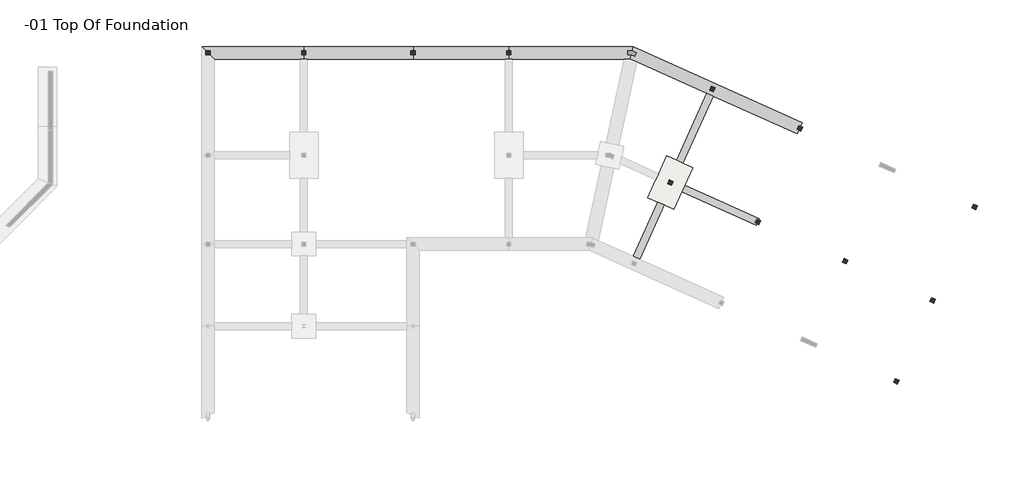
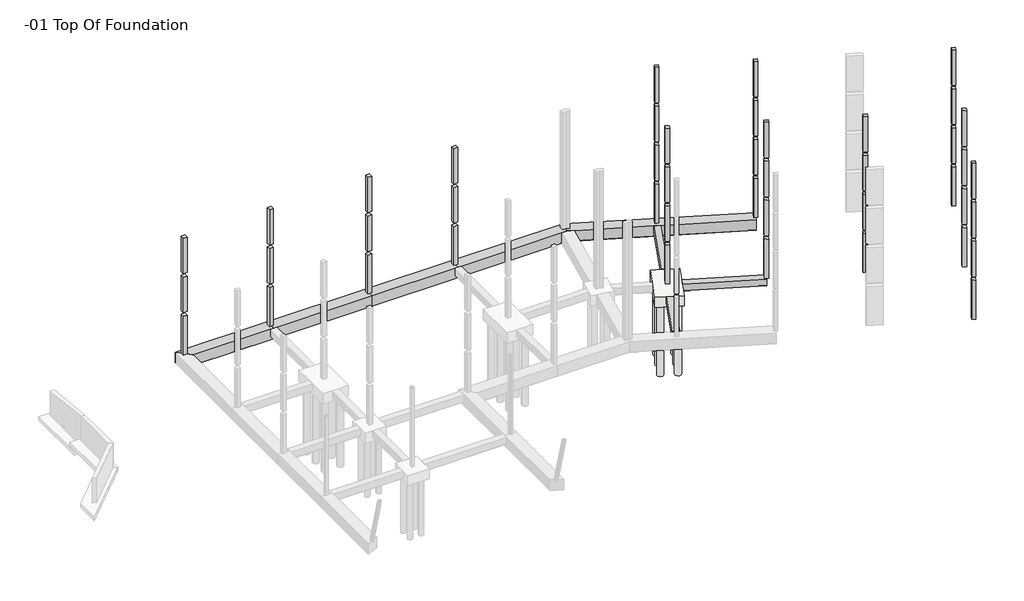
# One storey, part 4 of 4: 12 columns, 8 beams, 7 slabs.
"""IFC4 building model written with IfcOpenShell, lengths in millimetres."""

from ifc_helpers import new_model, si_unit, point, frame, frame_2d, origin, place, context, project, spatial, polyline, circle_curve, trimmed, segment, composite_curve, outline, extrude, faceted_brep, element, save

model = new_model("IFC4")

# Units and contexts
model_context = context("Model", 3, world=origin())
ifc_project = project(units=[si_unit("LENGTHUNIT", "METRE", prefix="MILLI")], contexts=[model_context])

# Site, building, storey
site = spatial("IfcSite", under=ifc_project)
building = spatial("IfcBuilding", under=site)
storey = spatial("IfcBuildingStorey", under=building, Name="-01 Top Of Foundation", Elevation=-304.8)

# Beams
placement = place(None, origin())
element("IfcBeam", 1, ObjectType="Ring Beam : 12 x 24", at=placement, inside=storey, context=model_context, shape_type="SweptSolid", body=[
    extrude(outline(polyline([(0.0, 787.4000001), (0.0, 1295.4), (584.2, 1295.4), (609.6, 1270.0), (609.6, 812.8000001), (584.2, 787.4000001), (0.0, 787.4000001)])), frame((35458.8390181, -8392.9653659, -304.8), z_axis=(0.40975609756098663, 0.9121951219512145, 0.0), x_axis=(0.0, 0.0, -1.0)), (0.0, 0.0, 1.0), 5372.1),
])
element("IfcBeam", 2, ObjectType="Ring Beam : 12 x 24", at=placement, inside=storey, context=model_context, shape_type="SweptSolid", body=[
    extrude(outline(polyline([(6743.7000001, 889.0), (7251.7, 889.0), (7251.7, 304.8), (7226.3, 279.4), (6769.1, 279.4), (6743.7000001, 304.8), (6743.7000001, 889.0)])), frame((37733.3780425, -17865.6165854, -1193.8), z_axis=(0.4097560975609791, 0.9121951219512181, 0.0), x_axis=(-0.9121951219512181, 0.4097560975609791, 0.0)), (0.0, 0.0, 1.0), 4356.1),
])
element("IfcBeam", 3, ObjectType="Ring Beam : 12 x 24", at=placement, inside=storey, context=model_context, shape_type="SweptSolid", body=[
    extrude(outline(polyline([(-7200.8999999, 1066.8), (-6692.9, 1066.8), (-6692.9, 482.6), (-6718.3, 457.2), (-7175.4999999, 457.2), (-7200.8999999, 482.6), (-7200.8999999, 1066.8)])), frame((37370.2819449, -18704.9317073, -1371.6), z_axis=(-0.9121951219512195, 0.40975609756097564, 0.0), x_axis=(-0.40975609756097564, -0.9121951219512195, 0.0)), (0.0, 0.0, 1.0), 5969.0),
])
element("IfcBeam", 4, ObjectType="Ring Beam : 16 x 32", at=placement, inside=storey, context=model_context, shape_type="Brep", body=[
    faceted_brep([(7010.4, -457.2, -304.8), (7010.4, 457.2, -304.8), (-457.2, 457.2, -304.8), (457.2, -457.2, -304.8), (6756.4, -457.2, -304.8), (7010.4, -457.2, -1193.8), (457.2, -457.2, -1193.8), (7010.4, -431.8, -1219.2), (431.8, -431.8, -1219.2), (7010.4, 431.8, -1219.2), (-431.8, 431.8, -1219.2), (7010.4, 457.2, -1193.8), (-457.2, 457.2, -1193.8)], [[[0, 1, 2, 3, 4]], [[5, 0, 4, 3, 6]], [[7, 5, 6, 8]], [[9, 7, 8, 10]], [[11, 9, 10, 12]], [[1, 11, 12, 2]], [[2, 12, 10, 8, 6, 3]], [[1, 0, 5, 7, 9, 11]]]),
])
element("IfcBeam", 5, ObjectType="Ring Beam : 16 x 32", at=placement, inside=storey, context=model_context, shape_type="Brep", body=[
    faceted_brep([(22009.1, -457.2, -304.8), (22009.1, 457.2, -304.8), (14998.7, 457.2, -304.8), (14998.7, -457.2, -304.8), (21755.1, -457.2, -304.8), (22009.1, -457.2, -1193.8), (14998.7, -457.2, -1193.8), (22009.1, -431.8, -1219.2), (14998.7, -431.8, -1219.2), (22009.1, 431.8, -1219.2), (14998.7, 431.8, -1219.2), (22009.1, 457.2, -1193.8), (14998.7, 457.2, -1193.8)], [[[0, 1, 2, 3, 4]], [[5, 0, 4, 3, 6]], [[7, 5, 6, 8]], [[9, 7, 8, 10]], [[11, 9, 10, 12]], [[1, 11, 12, 2]], [[2, 12, 10, 8, 6, 3]], [[1, 0, 5, 7, 9, 11]]]),
])
element("IfcBeam", 6, ObjectType="Ring Beam : 16 x 32", at=placement, inside=storey, context=model_context, shape_type="Brep", body=[
    faceted_brep([(31098.7387393, 457.2, -304.8), (31033.4244536, 152.4, -304.8), (30968.1131019, -152.386308, -304.8), (30902.7958822, -457.2, -304.8), (31345.5946226, -656.104247, -304.8), (36478.4321888, -2961.7639024, -304.8), (36941.8273107, -3169.92, -304.8), (43104.9824327, -5938.3960976, -304.8), (43375.5853595, -5335.982439, -304.8), (43479.6634083, -5104.284878, -304.8), (30902.7958822, -457.2, -1193.8), (31345.5946226, -656.104247, -1193.8), (43104.9824327, -5938.3960976, -1193.8), (30908.2387393, -431.8, -1219.2), (31327.3417353, -620.0601693, -1219.2), (43115.3902376, -5915.2263415, -1219.2), (31093.2958822, 431.8, -1219.2), (43469.2556034, -5127.4546341, -1219.2), (31098.7387393, 457.2, -1193.8), (43479.6634083, -5104.284878, -1193.8)], [[[0, 1, 2, 3, 4, 5, 6, 7, 8, 9]], [[3, 10, 11, 12, 7, 6, 5, 4]], [[10, 13, 14, 15, 12, 11]], [[13, 16, 17, 15, 14]], [[16, 18, 19, 17]], [[18, 0, 9, 19]], [[0, 18, 16, 13, 10, 3, 2, 1]], [[7, 12, 15, 17, 19, 9, 8]]]),
])
element("IfcBeam", 7, ObjectType="Ring Beam : 16 x 32", at=placement, inside=storey, context=model_context, shape_type="Brep", body=[
    faceted_brep([(14998.7, -457.2, -304.8), (14998.7, 457.2, -304.8), (7010.4, 457.2, -304.8), (7010.4, -457.2, -304.8), (7264.4, -457.2, -304.8), (14998.7, -457.2, -1193.8), (7010.4, -457.2, -1193.8), (14998.7, -431.8, -1219.2), (7010.4, -431.8, -1219.2), (14998.7, 431.8, -1219.2), (7010.4, 431.8, -1219.2), (14998.7, 457.2, -1193.8), (7010.4, 457.2, -1193.8)], [[[0, 1, 2, 3, 4]], [[5, 0, 4, 3, 6]], [[7, 5, 6, 8]], [[9, 7, 8, 10]], [[11, 9, 10, 12]], [[1, 11, 12, 2]], [[1, 0, 5, 7, 9, 11]], [[2, 12, 10, 8, 6, 3]]]),
])
element("IfcBeam", 8, ObjectType="Ring Beam : 16 x 32", at=placement, inside=storey, context=model_context, shape_type="Brep", body=[
    faceted_brep([(30902.7958822, -457.2, -304.8), (31098.7387393, 457.2, -304.8), (22009.1, 457.2, -304.8), (22009.1, -457.2, -304.8), (22263.1, -457.2, -304.8), (30453.0587055, -457.2, -304.8), (30902.7958822, -457.2, -1193.8), (22009.1, -457.2, -1193.8), (30453.0587055, -457.2, -1193.8), (30908.2387393, -431.8, -1219.2), (22009.1, -431.8, -1219.2), (30484.4781809, -431.8, -1219.2), (31093.2958822, 431.8, -1219.2), (22009.1, 431.8, -1219.2), (31098.7387393, 457.2, -1193.8), (22009.1, 457.2, -1193.8)], [[[0, 1, 2, 3, 4, 5]], [[6, 0, 5, 4, 3, 7, 8]], [[9, 6, 8, 7, 10, 11]], [[12, 9, 11, 10, 13]], [[14, 12, 13, 15]], [[1, 14, 15, 2]], [[1, 0, 6, 9, 12, 14]], [[2, 15, 13, 10, 7, 3]]]),
])

# Columns
element("IfcColumn", 9, ObjectType="Concrete-Rectangular-Column : 12 x 12", at=placement, inside=storey, context=model_context, shape_type="Brep", body=[
    faceted_brep([(152.4, 152.4, -304.8), (152.4, -152.4, -304.8), (-152.4, -152.4, -304.8), (-152.4, 152.4, -304.8), (152.4, -152.4, 3048.0), (152.4, 152.4, 3048.0), (-152.4, 152.4, 3048.0), (-152.4, -152.4, 3048.0), (152.4, 152.4, 0.0), (152.4, -152.4, 0.0), (-152.4, -152.4, 0.0), (-152.4, 152.4, 0.0)], [[[0, 1, 2, 3]], [[4, 5, 6, 7]], [[1, 0, 8, 5, 4, 9]], [[2, 1, 9, 4, 7, 10]], [[3, 2, 10, 7, 6, 11]], [[0, 3, 11, 6, 5, 8]]]),
    faceted_brep([(152.4, -152.4, 6705.6), (152.4, 152.4, 6705.6), (152.4, 152.4, 9753.6), (152.4, -152.4, 9753.6), (-152.4, -152.4, 6705.6), (-152.4, -152.4, 9753.6), (-152.4, 152.4, 6705.6), (-152.4, 152.4, 9753.6)], [[[0, 1, 2, 3]], [[4, 0, 3, 5]], [[6, 4, 5, 7]], [[1, 6, 7, 2]], [[1, 0, 4, 6]], [[3, 2, 7, 5]]]),
    faceted_brep([(152.4, -152.4, 6400.8), (152.4, 152.4, 6400.8), (-152.4, 152.4, 6400.8), (-152.4, -152.4, 6400.8), (152.4, -152.4, 3352.8), (152.4, 152.4, 3352.8), (-152.4, -152.4, 3352.8), (-152.4, 152.4, 3352.8)], [[[0, 1, 2, 3]], [[1, 0, 4, 5]], [[0, 3, 6, 4]], [[3, 2, 7, 6]], [[2, 1, 5, 7]], [[5, 4, 6, 7]]]),
])
element("IfcColumn", 10, ObjectType="Concrete-Rectangular-Column : 12 x 12", at=placement, inside=storey, context=model_context, shape_type="Brep", body=[
    faceted_brep([(7162.8, 152.4, -304.8), (7162.8, -152.4, -304.8), (6858.0, -152.4, -304.8), (6858.0, 152.4, -304.8), (7162.8, -152.4, 3048.0), (7162.8, 152.4, 3048.0), (6858.0, 152.4, 3048.0), (6858.0, -152.4, 3048.0), (7162.8, 152.4, 0.0), (7162.8, -152.4, 0.0), (6858.0, -152.4, 0.0), (6858.0, 152.4, 0.0)], [[[0, 1, 2, 3]], [[4, 5, 6, 7]], [[1, 0, 8, 5, 4, 9]], [[2, 1, 9, 4, 7, 10]], [[3, 2, 10, 7, 6, 11]], [[0, 3, 11, 6, 5, 8]]]),
    faceted_brep([(7162.8, -152.4, 6705.6), (7162.8, 152.4, 6705.6), (7162.8, 152.4, 9753.6), (7162.8, -152.4, 9753.6), (6858.0, -152.4, 6705.6), (6858.0, -152.4, 9753.6), (6858.0, 152.4, 6705.6), (6858.0, 152.4, 9753.6)], [[[0, 1, 2, 3]], [[4, 0, 3, 5]], [[6, 4, 5, 7]], [[1, 6, 7, 2]], [[1, 0, 4, 6]], [[3, 2, 7, 5]]]),
    faceted_brep([(7162.8, -152.4, 6400.8), (7162.8, 152.4, 6400.8), (6858.0, 152.4, 6400.8), (6858.0, -152.4, 6400.8), (7162.8, -152.4, 3352.8), (7162.8, 152.4, 3352.8), (6858.0, -152.4, 3352.8), (6858.0, 152.4, 3352.8)], [[[0, 1, 2, 3]], [[1, 0, 4, 5]], [[0, 3, 6, 4]], [[3, 2, 7, 6]], [[2, 1, 5, 7]], [[5, 4, 6, 7]]]),
])
element("IfcColumn", 11, ObjectType="Concrete-Rectangular-Column : 12 x 12", at=placement, inside=storey, context=model_context, shape_type="Brep", body=[
    faceted_brep([(15151.1, 152.4, -304.8), (15151.1, -152.4, -304.8), (14846.3, -152.4, -304.8), (14846.3, 152.4, -304.8), (15151.1, -152.4, 3048.0), (15151.1, 152.4, 3048.0), (14846.3, 152.4, 3048.0), (14846.3, -152.4, 3048.0), (15151.1, 152.4, 0.0), (15151.1, -152.4, 0.0), (14846.3, -152.4, 0.0), (14846.3, 152.4, 0.0)], [[[0, 1, 2, 3]], [[4, 5, 6, 7]], [[1, 0, 8, 5, 4, 9]], [[2, 1, 9, 4, 7, 10]], [[3, 2, 10, 7, 6, 11]], [[0, 3, 11, 6, 5, 8]]]),
    faceted_brep([(15151.1, -152.4, 6705.6), (15151.1, 152.4, 6705.6), (15151.1, 152.4, 9753.6), (15151.1, -152.4, 9753.6), (14846.3, -152.4, 6705.6), (14846.3, -152.4, 9753.6), (14846.3, 152.4, 6705.6), (14846.3, 152.4, 9753.6)], [[[0, 1, 2, 3]], [[4, 0, 3, 5]], [[6, 4, 5, 7]], [[1, 6, 7, 2]], [[1, 0, 4, 6]], [[3, 2, 7, 5]]]),
    faceted_brep([(15151.1, -152.4, 6400.8), (15151.1, 152.4, 6400.8), (14846.3, 152.4, 6400.8), (14846.3, -152.4, 6400.8), (15151.1, -152.4, 3352.8), (15151.1, 152.4, 3352.8), (14846.3, -152.4, 3352.8), (14846.3, 152.4, 3352.8)], [[[0, 1, 2, 3]], [[1, 0, 4, 5]], [[0, 3, 6, 4]], [[3, 2, 7, 6]], [[2, 1, 5, 7]], [[5, 4, 6, 7]]]),
])
element("IfcColumn", 12, ObjectType="Concrete-Rectangular-Column : 12 x 12", at=placement, inside=storey, context=model_context, shape_type="Brep", body=[
    faceted_brep([(22161.5, 152.4, -304.8), (22161.5, -152.4, -304.8), (21856.7, -152.4, -304.8), (21856.7, 152.4, -304.8), (22161.5, -152.4, 3048.0), (22161.5, 152.4, 3048.0), (21856.7, 152.4, 3048.0), (21856.7, -152.4, 3048.0), (22161.5, 152.4, 0.0), (22161.5, -152.4, 0.0), (21856.7, -152.4, 0.0), (21856.7, 152.4, 0.0)], [[[0, 1, 2, 3]], [[4, 5, 6, 7]], [[1, 0, 8, 5, 4, 9]], [[2, 1, 9, 4, 7, 10]], [[3, 2, 10, 7, 6, 11]], [[0, 3, 11, 6, 5, 8]]]),
    faceted_brep([(22161.5, -152.4, 6705.6), (22161.5, 152.4, 6705.6), (22161.5, 152.4, 9753.6), (22161.5, -152.4, 9753.6), (21856.7, -152.4, 6705.6), (21856.7, -152.4, 9753.6), (21856.7, 152.4, 6705.6), (21856.7, 152.4, 9753.6)], [[[0, 1, 2, 3]], [[4, 0, 3, 5]], [[6, 4, 5, 7]], [[1, 6, 7, 2]], [[1, 0, 4, 6]], [[3, 2, 7, 5]]]),
    faceted_brep([(22161.5, -152.4, 6400.8), (22161.5, 152.4, 6400.8), (21856.7, 152.4, 6400.8), (21856.7, -152.4, 6400.8), (22161.5, -152.4, 3352.8), (22161.5, 152.4, 3352.8), (21856.7, -152.4, 3352.8), (21856.7, 152.4, 3352.8)], [[[0, 1, 2, 3]], [[1, 0, 4, 5]], [[0, 3, 6, 4]], [[3, 2, 7, 6]], [[2, 1, 5, 7]], [[5, 4, 6, 7]]]),
])
element("IfcColumn", 13, ObjectType="Concrete-Rectangular-Column : 12 x 12", at=placement, inside=storey, context=model_context, shape_type="Brep", body=[
    faceted_brep([(36820.8985303, -2447.3209756, -304.8), (37098.9356034, -2572.2146341, -304.8), (36974.0419449, -2850.2517073, -304.8), (36696.0048717, -2725.3580488, -304.8), (37098.9356034, -2572.2146341, 3048.0), (36820.8985303, -2447.3209756, 3048.0), (36696.0048717, -2725.3580488, 3048.0), (36974.0419449, -2850.2517073, 3048.0), (36820.8985303, -2447.3209756, 0.0), (37098.9356034, -2572.2146341, 0.0), (36974.0419449, -2850.2517073, 0.0), (36696.0048717, -2725.3580488, 0.0)], [[[0, 1, 2, 3]], [[4, 5, 6, 7]], [[1, 0, 8, 5, 4, 9]], [[2, 1, 9, 4, 7, 10]], [[3, 2, 10, 7, 6, 11]], [[0, 3, 11, 6, 5, 8]]]),
    faceted_brep([(37098.9356034, -2572.2146341, 10058.4), (36820.8985303, -2447.3209756, 10058.4), (36820.8985303, -2447.3209756, 13106.4), (37098.9356034, -2572.2146341, 13106.4), (36974.0419449, -2850.2517073, 10058.4), (36974.0419449, -2850.2517073, 13106.4), (36696.0048717, -2725.3580488, 10058.4), (36696.0048717, -2725.3580488, 13106.4)], [[[0, 1, 2, 3]], [[4, 0, 3, 5]], [[6, 4, 5, 7]], [[1, 6, 7, 2]], [[1, 0, 4, 6]], [[3, 2, 7, 5]]]),
    faceted_brep([(36820.8985303, -2447.3209756, 3352.8), (37098.9356034, -2572.2146341, 3352.8), (36974.0419449, -2850.2517073, 3352.8), (36696.0048717, -2725.3580488, 3352.8), (37098.9356034, -2572.2146341, 6400.8), (36820.8985303, -2447.3209756, 6400.8), (36696.0048717, -2725.3580488, 6400.8), (36974.0419449, -2850.2517073, 6400.8)], [[[0, 1, 2, 3]], [[4, 5, 6, 7]], [[1, 0, 5, 4]], [[2, 1, 4, 7]], [[3, 2, 7, 6]], [[0, 3, 6, 5]]]),
    faceted_brep([(36820.8985303, -2447.3209756, 6705.6), (37098.9356034, -2572.2146341, 6705.6), (36974.0419449, -2850.2517073, 6705.6), (36696.0048717, -2725.3580488, 6705.6), (37098.9356034, -2572.2146341, 9753.6), (36820.8985303, -2447.3209756, 9753.6), (36696.0048717, -2725.3580488, 9753.6), (36974.0419449, -2850.2517073, 9753.6)], [[[0, 1, 2, 3]], [[4, 5, 6, 7]], [[1, 0, 5, 4]], [[2, 1, 4, 7]], [[3, 2, 7, 6]], [[0, 3, 6, 5]]]),
])
element("IfcColumn", 14, ObjectType="Concrete-Rectangular-Column : 12 x 12", at=placement, inside=storey, context=model_context, shape_type="Brep", body=[
    faceted_brep([(43215.7512132, -5319.875122, -304.8), (43493.7882864, -5444.7687805, -304.8), (43368.8946278, -5722.8058537, -304.8), (43090.8575546, -5597.9121951, -304.8), (43493.7882864, -5444.7687805, 3048.0), (43215.7512132, -5319.875122, 3048.0), (43090.8575546, -5597.9121951, 3048.0), (43368.8946278, -5722.8058537, 3048.0), (43215.7512132, -5319.875122, 0.0), (43493.7882864, -5444.7687805, 0.0), (43368.8946278, -5722.8058537, 0.0), (43090.8575546, -5597.9121951, 0.0)], [[[0, 1, 2, 3]], [[4, 5, 6, 7]], [[1, 0, 8, 5, 4, 9]], [[2, 1, 9, 4, 7, 10]], [[3, 2, 10, 7, 6, 11]], [[0, 3, 11, 6, 5, 8]]]),
    faceted_brep([(43493.7882864, -5444.7687805, 10058.4), (43215.7512132, -5319.875122, 10058.4), (43215.7512132, -5319.875122, 13106.4), (43493.7882864, -5444.7687805, 13106.4), (43368.8946278, -5722.8058537, 10058.4), (43368.8946278, -5722.8058537, 13106.4), (43090.8575546, -5597.9121951, 10058.4), (43090.8575546, -5597.9121951, 13106.4)], [[[0, 1, 2, 3]], [[4, 0, 3, 5]], [[6, 4, 5, 7]], [[1, 6, 7, 2]], [[1, 0, 4, 6]], [[3, 2, 7, 5]]]),
    faceted_brep([(43215.7512132, -5319.875122, 3352.8), (43493.7882864, -5444.7687805, 3352.8), (43368.8946278, -5722.8058537, 3352.8), (43090.8575546, -5597.9121951, 3352.8), (43493.7882864, -5444.7687805, 6400.8), (43215.7512132, -5319.875122, 6400.8), (43090.8575546, -5597.9121951, 6400.8), (43368.8946278, -5722.8058537, 6400.8)], [[[0, 1, 2, 3]], [[4, 5, 6, 7]], [[1, 0, 5, 4]], [[2, 1, 4, 7]], [[3, 2, 7, 6]], [[0, 3, 6, 5]]]),
    faceted_brep([(43215.7512132, -5319.875122, 6705.6), (43493.7882864, -5444.7687805, 6705.6), (43368.8946278, -5722.8058537, 6705.6), (43090.8575546, -5597.9121951, 6705.6), (43493.7882864, -5444.7687805, 9753.6), (43215.7512132, -5319.875122, 9753.6), (43090.8575546, -5597.9121951, 9753.6), (43368.8946278, -5722.8058537, 9753.6)], [[[0, 1, 2, 3]], [[4, 5, 6, 7]], [[1, 0, 5, 4]], [[2, 1, 4, 7]], [[3, 2, 7, 6]], [[0, 3, 6, 5]]]),
])
element("IfcColumn", 15, ObjectType="Concrete-Rectangular-Column : 12 x 12", at=placement, inside=storey, context=model_context, shape_type="Brep", body=[
    faceted_brep([(56005.456579, -11064.9834146, -304.8), (56283.4936522, -11189.8770732, -304.8), (56158.5999937, -11467.9141463, -304.8), (55880.5629205, -11343.0204878, -304.8), (56283.4936522, -11189.8770732, 3048.0), (56005.456579, -11064.9834146, 3048.0), (55880.5629205, -11343.0204878, 3048.0), (56158.5999937, -11467.9141463, 3048.0), (56005.456579, -11064.9834146, 0.0), (56283.4936522, -11189.8770732, 0.0), (56158.5999937, -11467.9141463, 0.0), (55880.5629205, -11343.0204878, 0.0)], [[[0, 1, 2, 3]], [[4, 5, 6, 7]], [[1, 0, 8, 5, 4, 9]], [[2, 1, 9, 4, 7, 10]], [[3, 2, 10, 7, 6, 11]], [[0, 3, 11, 6, 5, 8]]]),
    faceted_brep([(56283.4936522, -11189.8770732, 10058.4), (56005.456579, -11064.9834146, 10058.4), (56005.456579, -11064.9834146, 13106.4), (56283.4936522, -11189.8770732, 13106.4), (56158.5999937, -11467.9141463, 10058.4), (56158.5999937, -11467.9141463, 13106.4), (55880.5629205, -11343.0204878, 10058.4), (55880.5629205, -11343.0204878, 13106.4)], [[[0, 1, 2, 3]], [[4, 0, 3, 5]], [[6, 4, 5, 7]], [[1, 6, 7, 2]], [[1, 0, 4, 6]], [[3, 2, 7, 5]]]),
    faceted_brep([(56005.456579, -11064.9834146, 3352.8), (56283.4936522, -11189.8770732, 3352.8), (56158.5999937, -11467.9141463, 3352.8), (55880.5629205, -11343.0204878, 3352.8), (56283.4936522, -11189.8770732, 6400.8), (56005.456579, -11064.9834146, 6400.8), (55880.5629205, -11343.0204878, 6400.8), (56158.5999937, -11467.9141463, 6400.8)], [[[0, 1, 2, 3]], [[4, 5, 6, 7]], [[1, 0, 5, 4]], [[2, 1, 4, 7]], [[3, 2, 7, 6]], [[0, 3, 6, 5]]]),
    faceted_brep([(56005.456579, -11064.9834146, 6705.6), (56283.4936522, -11189.8770732, 6705.6), (56158.5999937, -11467.9141463, 6705.6), (55880.5629205, -11343.0204878, 6705.6), (56283.4936522, -11189.8770732, 9753.6), (56005.456579, -11064.9834146, 9753.6), (55880.5629205, -11343.0204878, 9753.6), (56158.5999937, -11467.9141463, 9753.6)], [[[0, 1, 2, 3]], [[4, 5, 6, 7]], [[1, 0, 5, 4]], [[2, 1, 4, 7]], [[3, 2, 7, 6]], [[0, 3, 6, 5]]]),
])
element("IfcColumn", 16, ObjectType="Concrete-Rectangular-Column : 12 x 12", at=placement, inside=storey, context=model_context, shape_type="Brep", body=[
    faceted_brep([(52929.9502376, -17911.6463415, -304.8), (53207.9873107, -18036.54, -304.8), (53083.0936522, -18314.5770732, -304.8), (52805.056579, -18189.6834146, -304.8), (53207.9873107, -18036.54, 3048.0), (52929.9502376, -17911.6463415, 3048.0), (52805.056579, -18189.6834146, 3048.0), (53083.0936522, -18314.5770732, 3048.0), (52929.9502376, -17911.6463415, 0.0), (53207.9873107, -18036.54, 0.0), (53083.0936522, -18314.5770732, 0.0), (52805.056579, -18189.6834146, 0.0)], [[[0, 1, 2, 3]], [[4, 5, 6, 7]], [[1, 0, 8, 5, 4, 9]], [[2, 1, 9, 4, 7, 10]], [[3, 2, 10, 7, 6, 11]], [[0, 3, 11, 6, 5, 8]]]),
    faceted_brep([(53207.9873107, -18036.54, 10058.4), (52929.9502376, -17911.6463415, 10058.4), (52929.9502376, -17911.6463415, 13106.4), (53207.9873107, -18036.54, 13106.4), (53083.0936522, -18314.5770732, 10058.4), (53083.0936522, -18314.5770732, 13106.4), (52805.056579, -18189.6834146, 10058.4), (52805.056579, -18189.6834146, 13106.4)], [[[0, 1, 2, 3]], [[4, 0, 3, 5]], [[6, 4, 5, 7]], [[1, 6, 7, 2]], [[1, 0, 4, 6]], [[3, 2, 7, 5]]]),
    faceted_brep([(52929.9502376, -17911.6463415, 3352.8), (53207.9873107, -18036.54, 3352.8), (53083.0936522, -18314.5770732, 3352.8), (52805.056579, -18189.6834146, 3352.8), (53207.9873107, -18036.54, 6400.8), (52929.9502376, -17911.6463415, 6400.8), (52805.056579, -18189.6834146, 6400.8), (53083.0936522, -18314.5770732, 6400.8)], [[[0, 1, 2, 3]], [[4, 5, 6, 7]], [[1, 0, 5, 4]], [[2, 1, 4, 7]], [[3, 2, 7, 6]], [[0, 3, 6, 5]]]),
    faceted_brep([(52929.9502376, -17911.6463415, 6705.6), (53207.9873107, -18036.54, 6705.6), (53083.0936522, -18314.5770732, 6705.6), (52805.056579, -18189.6834146, 6705.6), (53207.9873107, -18036.54, 9753.6), (52929.9502376, -17911.6463415, 9753.6), (52805.056579, -18189.6834146, 9753.6), (53083.0936522, -18314.5770732, 9753.6)], [[[0, 1, 2, 3]], [[4, 5, 6, 7]], [[1, 0, 5, 4]], [[2, 1, 4, 7]], [[3, 2, 7, 6]], [[0, 3, 6, 5]]]),
])
element("IfcColumn", 17, ObjectType="Concrete-Rectangular-Column : 12 x 12", at=placement, inside=storey, context=model_context, shape_type="Brep", body=[
    faceted_brep([(50270.7560912, -23831.5190244, -304.8), (50548.7931644, -23956.4126829, -304.8), (50423.8995059, -24234.4497561, -304.8), (50145.8624327, -24109.5560976, -304.8), (50548.7931644, -23956.4126829, 3048.0), (50270.7560912, -23831.5190244, 3048.0), (50145.8624327, -24109.5560976, 3048.0), (50423.8995059, -24234.4497561, 3048.0), (50270.7560912, -23831.5190244, 0.0), (50548.7931644, -23956.4126829, 0.0), (50423.8995059, -24234.4497561, 0.0), (50145.8624327, -24109.5560976, 0.0)], [[[0, 1, 2, 3]], [[4, 5, 6, 7]], [[1, 0, 8, 5, 4, 9]], [[2, 1, 9, 4, 7, 10]], [[3, 2, 10, 7, 6, 11]], [[0, 3, 11, 6, 5, 8]]]),
    faceted_brep([(50548.7931644, -23956.4126829, 10058.4), (50270.7560912, -23831.5190244, 10058.4), (50270.7560912, -23831.5190244, 13106.4), (50548.7931644, -23956.4126829, 13106.4), (50423.8995059, -24234.4497561, 10058.4), (50423.8995059, -24234.4497561, 13106.4), (50145.8624327, -24109.5560976, 10058.4), (50145.8624327, -24109.5560976, 13106.4)], [[[0, 1, 2, 3]], [[4, 0, 3, 5]], [[6, 4, 5, 7]], [[1, 6, 7, 2]], [[1, 0, 4, 6]], [[3, 2, 7, 5]]]),
    faceted_brep([(50270.7560912, -23831.5190244, 3352.8), (50548.7931644, -23956.4126829, 3352.8), (50423.8995059, -24234.4497561, 3352.8), (50145.8624327, -24109.5560976, 3352.8), (50548.7931644, -23956.4126829, 6400.8), (50270.7560912, -23831.5190244, 6400.8), (50145.8624327, -24109.5560976, 6400.8), (50423.8995059, -24234.4497561, 6400.8)], [[[0, 1, 2, 3]], [[4, 5, 6, 7]], [[1, 0, 5, 4]], [[2, 1, 4, 7]], [[3, 2, 7, 6]], [[0, 3, 6, 5]]]),
    faceted_brep([(50270.7560912, -23831.5190244, 6705.6), (50548.7931644, -23956.4126829, 6705.6), (50423.8995059, -24234.4497561, 6705.6), (50145.8624327, -24109.5560976, 6705.6), (50548.7931644, -23956.4126829, 9753.6), (50270.7560912, -23831.5190244, 9753.6), (50145.8624327, -24109.5560976, 9753.6), (50423.8995059, -24234.4497561, 9753.6)], [[[0, 1, 2, 3]], [[4, 5, 6, 7]], [[1, 0, 5, 4]], [[2, 1, 4, 7]], [[3, 2, 7, 6]], [[0, 3, 6, 5]]]),
])
element("IfcColumn", 18, ObjectType="Concrete-Rectangular-Column : 12 x 12", at=placement, inside=storey, context=model_context, shape_type="Brep", body=[
    faceted_brep([(33745.3921888, -9293.9839024, -304.8), (34023.429262, -9418.877561, -304.8), (33898.5356034, -9696.9146341, -304.8), (33620.4985303, -9572.0209756, -304.8), (34023.429262, -9418.877561, 3048.0), (33745.3921888, -9293.9839024, 3048.0), (33620.4985303, -9572.0209756, 3048.0), (33898.5356034, -9696.9146341, 3048.0), (33745.3921888, -9293.9839024, 0.0), (34023.429262, -9418.877561, 0.0), (33898.5356034, -9696.9146341, 0.0), (33620.4985303, -9572.0209756, 0.0)], [[[0, 1, 2, 3]], [[4, 5, 6, 7]], [[1, 0, 8, 5, 4, 9]], [[2, 1, 9, 4, 7, 10]], [[3, 2, 10, 7, 6, 11]], [[0, 3, 11, 6, 5, 8]]]),
    faceted_brep([(34023.429262, -9418.877561, 10058.4), (33745.3921888, -9293.9839024, 10058.4), (33745.3921888, -9293.9839024, 13106.4), (34023.429262, -9418.877561, 13106.4), (33898.5356034, -9696.9146341, 10058.4), (33898.5356034, -9696.9146341, 13106.4), (33620.4985303, -9572.0209756, 10058.4), (33620.4985303, -9572.0209756, 13106.4)], [[[0, 1, 2, 3]], [[4, 0, 3, 5]], [[6, 4, 5, 7]], [[1, 6, 7, 2]], [[1, 0, 4, 6]], [[3, 2, 7, 5]]]),
    faceted_brep([(33745.3921888, -9293.9839024, 3352.8), (34023.429262, -9418.877561, 3352.8), (33898.5356034, -9696.9146341, 3352.8), (33620.4985303, -9572.0209756, 3352.8), (34023.429262, -9418.877561, 6400.8), (33745.3921888, -9293.9839024, 6400.8), (33620.4985303, -9572.0209756, 6400.8), (33898.5356034, -9696.9146341, 6400.8)], [[[0, 1, 2, 3]], [[4, 5, 6, 7]], [[1, 0, 5, 4]], [[2, 1, 4, 7]], [[3, 2, 7, 6]], [[0, 3, 6, 5]]]),
    faceted_brep([(33745.3921888, -9293.9839024, 6705.6), (34023.429262, -9418.877561, 6705.6), (33898.5356034, -9696.9146341, 6705.6), (33620.4985303, -9572.0209756, 6705.6), (34023.429262, -9418.877561, 9753.6), (33745.3921888, -9293.9839024, 9753.6), (33620.4985303, -9572.0209756, 9753.6), (33898.5356034, -9696.9146341, 9753.6)], [[[0, 1, 2, 3]], [[4, 5, 6, 7]], [[1, 0, 5, 4]], [[2, 1, 4, 7]], [[3, 2, 7, 6]], [[0, 3, 6, 5]]]),
])
element("IfcColumn", 19, ObjectType="Concrete-Rectangular-Column : 12 x 12", at=placement, inside=storey, context=model_context, shape_type="Brep", body=[
    faceted_brep([(40140.2448717, -12166.5380488, -304.8), (40418.2819449, -12291.4317073, -304.8), (40293.3882864, -12569.4687805, -304.8), (40015.3512132, -12444.575122, -304.8), (40418.2819449, -12291.4317073, 3048.0), (40140.2448717, -12166.5380488, 3048.0), (40015.3512132, -12444.575122, 3048.0), (40293.3882864, -12569.4687805, 3048.0), (40140.2448717, -12166.5380488, 0.0), (40418.2819449, -12291.4317073, 0.0), (40293.3882864, -12569.4687805, 0.0), (40015.3512132, -12444.575122, 0.0)], [[[0, 1, 2, 3]], [[4, 5, 6, 7]], [[1, 0, 8, 5, 4, 9]], [[2, 1, 9, 4, 7, 10]], [[3, 2, 10, 7, 6, 11]], [[0, 3, 11, 6, 5, 8]]]),
    faceted_brep([(40418.2819449, -12291.4317073, 10058.4), (40140.2448717, -12166.5380488, 10058.4), (40140.2448717, -12166.5380488, 13106.4), (40418.2819449, -12291.4317073, 13106.4), (40293.3882864, -12569.4687805, 10058.4), (40293.3882864, -12569.4687805, 13106.4), (40015.3512132, -12444.575122, 10058.4), (40015.3512132, -12444.575122, 13106.4)], [[[0, 1, 2, 3]], [[4, 0, 3, 5]], [[6, 4, 5, 7]], [[1, 6, 7, 2]], [[1, 0, 4, 6]], [[3, 2, 7, 5]]]),
    faceted_brep([(40140.2448717, -12166.5380488, 3352.8), (40418.2819449, -12291.4317073, 3352.8), (40293.3882864, -12569.4687805, 3352.8), (40015.3512132, -12444.575122, 3352.8), (40418.2819449, -12291.4317073, 6400.8), (40140.2448717, -12166.5380488, 6400.8), (40015.3512132, -12444.575122, 6400.8), (40293.3882864, -12569.4687805, 6400.8)], [[[0, 1, 2, 3]], [[4, 5, 6, 7]], [[1, 0, 5, 4]], [[2, 1, 4, 7]], [[3, 2, 7, 6]], [[0, 3, 6, 5]]]),
    faceted_brep([(40140.2448717, -12166.5380488, 6705.6), (40418.2819449, -12291.4317073, 6705.6), (40293.3882864, -12569.4687805, 6705.6), (40015.3512132, -12444.575122, 6705.6), (40418.2819449, -12291.4317073, 9753.6), (40140.2448717, -12166.5380488, 9753.6), (40015.3512132, -12444.575122, 9753.6), (40293.3882864, -12569.4687805, 9753.6)], [[[0, 1, 2, 3]], [[4, 5, 6, 7]], [[1, 0, 5, 4]], [[2, 1, 4, 7]], [[3, 2, 7, 6]], [[0, 3, 6, 5]]]),
])
element("IfcColumn", 20, ObjectType="Concrete-Rectangular-Column : 12 x 12", at=placement, inside=storey, context=model_context, shape_type="Brep", body=[
    faceted_brep([(46535.0975546, -15039.0921951, -304.8), (46813.1346278, -15163.9858537, -304.8), (46688.2409693, -15442.0229268, -304.8), (46410.2038961, -15317.1292683, -304.8), (46813.1346278, -15163.9858537, 3048.0), (46535.0975546, -15039.0921951, 3048.0), (46410.2038961, -15317.1292683, 3048.0), (46688.2409693, -15442.0229268, 3048.0), (46535.0975546, -15039.0921951, 0.0), (46813.1346278, -15163.9858537, 0.0), (46688.2409693, -15442.0229268, 0.0), (46410.2038961, -15317.1292683, 0.0)], [[[0, 1, 2, 3]], [[4, 5, 6, 7]], [[1, 0, 8, 5, 4, 9]], [[2, 1, 9, 4, 7, 10]], [[3, 2, 10, 7, 6, 11]], [[0, 3, 11, 6, 5, 8]]]),
    faceted_brep([(46813.1346278, -15163.9858537, 10058.4), (46535.0975546, -15039.0921951, 10058.4), (46535.0975546, -15039.0921951, 13106.4), (46813.1346278, -15163.9858537, 13106.4), (46688.2409693, -15442.0229268, 10058.4), (46688.2409693, -15442.0229268, 13106.4), (46410.2038961, -15317.1292683, 10058.4), (46410.2038961, -15317.1292683, 13106.4)], [[[0, 1, 2, 3]], [[4, 0, 3, 5]], [[6, 4, 5, 7]], [[1, 6, 7, 2]], [[1, 0, 4, 6]], [[3, 2, 7, 5]]]),
    faceted_brep([(46535.0975546, -15039.0921951, 3352.8), (46813.1346278, -15163.9858537, 3352.8), (46688.2409693, -15442.0229268, 3352.8), (46410.2038961, -15317.1292683, 3352.8), (46813.1346278, -15163.9858537, 6400.8), (46535.0975546, -15039.0921951, 6400.8), (46410.2038961, -15317.1292683, 6400.8), (46688.2409693, -15442.0229268, 6400.8)], [[[0, 1, 2, 3]], [[4, 5, 6, 7]], [[1, 0, 5, 4]], [[2, 1, 4, 7]], [[3, 2, 7, 6]], [[0, 3, 6, 5]]]),
    faceted_brep([(46535.0975546, -15039.0921951, 6705.6), (46813.1346278, -15163.9858537, 6705.6), (46688.2409693, -15442.0229268, 6705.6), (46410.2038961, -15317.1292683, 6705.6), (46813.1346278, -15163.9858537, 9753.6), (46535.0975546, -15039.0921951, 9753.6), (46410.2038961, -15317.1292683, 9753.6), (46688.2409693, -15442.0229268, 9753.6)], [[[0, 1, 2, 3]], [[4, 5, 6, 7]], [[1, 0, 5, 4]], [[2, 1, 4, 7]], [[3, 2, 7, 6]], [[0, 3, 6, 5]]]),
])

# Slabs
element("IfcSlab", 21, ObjectType="Pile Cap-6 Pile : 132\"x82\"x35\"", at=placement, inside=storey, context=model_context, shape_type="Brep", body=[
    faceted_brep([(35458.8390181, -8392.9653659, -304.8), (34740.576579, -8070.3234146, -304.8), (34277.1814571, -7862.1673171, -304.8), (33558.9190181, -7539.5253659, -304.8), (32979.0776096, -8830.3627872, -304.8), (32770.921512, -9293.7579091, -304.8), (32185.0887742, -10597.9331707, -304.8), (32903.3512132, -10920.575122, -304.8), (33366.7463351, -11128.7312195, -304.8), (34085.0087742, -11451.3731707, -304.8), (34667.8458473, -10153.8668293, -304.8), (34876.0019449, -9690.4717073, -304.8), (35458.8390181, -8392.9653659, -1193.8), (34085.0087742, -11451.3731707, -1193.8), (32185.0887742, -10597.9331707, -1193.8), (33558.9190181, -7539.5253659, -1193.8)], [[[0, 1, 2, 3, 4, 5, 6, 7, 8, 9, 10, 11]], [[12, 13, 14, 15]], [[3, 2, 1, 0, 12, 15]], [[6, 5, 4, 3, 15, 14]], [[9, 8, 7, 6, 14, 13]], [[0, 11, 10, 9, 13, 12]]]),
])
element("IfcSlab", 22, ObjectType="Round In Situ Concrete Pile : 20\" Diameter", at=placement, inside=storey, context=model_context, shape_type="SweptSolid", body=[
    extrude(outline(composite_curve([segment(trimmed(circle_curve(frame_2d((33763.1102376, -8076.7663415)), 254.0), [point((33531.4126766, -7972.6882927))], [point((33994.8077985, -8180.8443902))], False, "CARTESIAN"), True, "CONTINUOUS"), segment(trimmed(circle_curve(frame_2d((33763.1102376, -8076.7663415)), 254.0), [point((33994.8077985, -8180.8443902))], [point((33531.4126766, -7972.6882927))], False, "CARTESIAN"), True, "CONTINUOUS")], self_intersect=False)), frame((0.0, 0.0, -7289.8), z_axis=(0.0, 0.0, 1.0), x_axis=(1.0, 0.0, 0.0)), (0.0, 0.0, 1.0), 6096.0),
])
element("IfcSlab", 23, ObjectType="Round In Situ Concrete Pile : 20\" Diameter", at=placement, inside=storey, context=model_context, shape_type="SweptSolid", body=[
    extrude(outline(composite_curve([segment(trimmed(circle_curve(frame_2d((32722.3297498, -10393.7419512)), 254.0), [point((32490.6321888, -10289.6639024))], [point((32954.0273107, -10497.82))], False, "CARTESIAN"), True, "CONTINUOUS"), segment(trimmed(circle_curve(frame_2d((32722.3297498, -10393.7419512)), 254.0), [point((32954.0273107, -10497.82))], [point((32490.6321888, -10289.6639024))], False, "CARTESIAN"), True, "CONTINUOUS")], self_intersect=False)), frame((0.0, 0.0, -7289.8), z_axis=(0.0, 0.0, 1.0), x_axis=(1.0, 0.0, 0.0)), (0.0, 0.0, 1.0), 6096.0),
])
element("IfcSlab", 24, ObjectType="Round In Situ Concrete Pile : 20\" Diameter", at=placement, inside=storey, context=model_context, shape_type="SweptSolid", body=[
    extrude(outline(composite_curve([segment(trimmed(circle_curve(frame_2d((33880.8175546, -10914.1321951)), 254.0), [point((33649.1199937, -10810.0541463))], [point((34112.5151156, -11018.2102439))], False, "CARTESIAN"), True, "CONTINUOUS"), segment(trimmed(circle_curve(frame_2d((33880.8175546, -10914.1321951)), 254.0), [point((34112.5151156, -11018.2102439))], [point((33649.1199937, -10810.0541463))], False, "CARTESIAN"), True, "CONTINUOUS")], self_intersect=False)), frame((0.0, 0.0, -7289.8), z_axis=(0.0, 0.0, 1.0), x_axis=(1.0, 0.0, 0.0)), (0.0, 0.0, 1.0), 6096.0),
])
element("IfcSlab", 25, ObjectType="Round In Situ Concrete Pile : 20\" Diameter", at=placement, inside=storey, context=model_context, shape_type="SweptSolid", body=[
    extrude(outline(composite_curve([segment(trimmed(circle_curve(frame_2d((34921.5980425, -8597.1565854)), 254.0), [point((34689.9004815, -8493.0785366))], [point((35153.2956034, -8701.2346341))], False, "CARTESIAN"), True, "CONTINUOUS"), segment(trimmed(circle_curve(frame_2d((34921.5980425, -8597.1565854)), 254.0), [point((35153.2956034, -8701.2346341))], [point((34689.9004815, -8493.0785366))], False, "CARTESIAN"), True, "CONTINUOUS")], self_intersect=False)), frame((0.0, 0.0, -7289.8), z_axis=(0.0, 0.0, 1.0), x_axis=(1.0, 0.0, 0.0)), (0.0, 0.0, 1.0), 6096.0),
])
element("IfcSlab", 26, ObjectType="Round In Situ Concrete Pile : 20\" Diameter", at=placement, inside=storey, context=model_context, shape_type="SweptSolid", body=[
    extrude(outline(composite_curve([segment(trimmed(circle_curve(frame_2d((33242.7199937, -9235.2541463)), 254.0), [point((33011.0224327, -9131.1760976))], [point((33474.4175546, -9339.3321951))], False, "CARTESIAN"), True, "CONTINUOUS"), segment(trimmed(circle_curve(frame_2d((33242.7199937, -9235.2541463)), 254.0), [point((33474.4175546, -9339.3321951))], [point((33011.0224327, -9131.1760976))], False, "CARTESIAN"), True, "CONTINUOUS")], self_intersect=False)), frame((0.0, 0.0, -7289.8), z_axis=(0.0, 0.0, 1.0), x_axis=(1.0, 0.0, 0.0)), (0.0, 0.0, 1.0), 6096.0),
])
element("IfcSlab", 27, ObjectType="Round In Situ Concrete Pile : 20\" Diameter", at=placement, inside=storey, context=model_context, shape_type="SweptSolid", body=[
    extrude(outline(composite_curve([segment(trimmed(circle_curve(frame_2d((34401.2077985, -9755.6443902)), 254.0), [point((34169.5102376, -9651.5663415))], [point((34632.9053595, -9859.722439))], False, "CARTESIAN"), True, "CONTINUOUS"), segment(trimmed(circle_curve(frame_2d((34401.2077985, -9755.6443902)), 254.0), [point((34632.9053595, -9859.722439))], [point((34169.5102376, -9651.5663415))], False, "CARTESIAN"), True, "CONTINUOUS")], self_intersect=False)), frame((0.0, 0.0, -7289.8), z_axis=(0.0, 0.0, 1.0), x_axis=(1.0, 0.0, 0.0)), (0.0, 0.0, 1.0), 6096.0),
])

save(model, "model.ifc")
